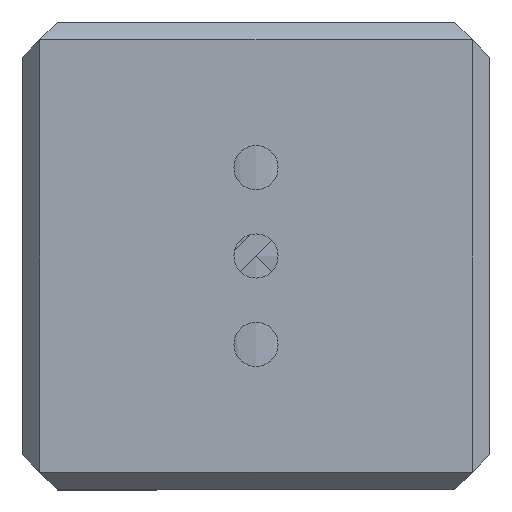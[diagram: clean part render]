
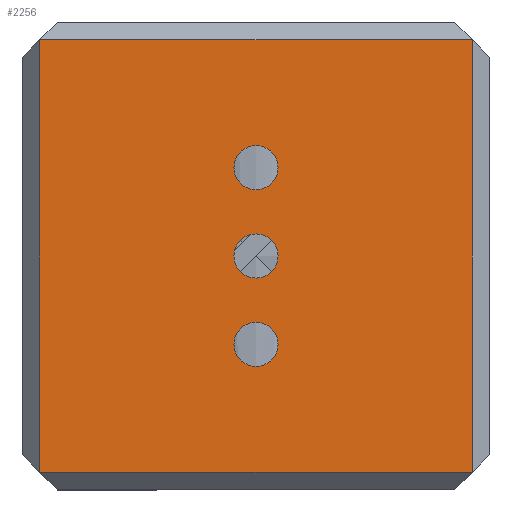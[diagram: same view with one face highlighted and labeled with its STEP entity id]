
A CAD part, front view. The second image highlights one B-rep face of the part: STEP entity #2256.
In plain terms, the highlighted planar face has unit normal (0, -1, 0).
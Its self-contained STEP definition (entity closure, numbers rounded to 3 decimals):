
#150 = EDGE_CURVE ( 'NONE', #11513, #2352, #15773, .T. ) ;
#610 = ORIENTED_EDGE ( 'NONE', *, *, #2350, .F. ) ;
#632 = DIRECTION ( 'NONE',  ( 0., -1., 0. ) ) ;
#1217 = CIRCLE ( 'NONE', #19237, 2.5 ) ;
#1283 = CARTESIAN_POINT ( 'NONE',  ( -2.5, -59.5, 10. ) ) ;
#1376 = ORIENTED_EDGE ( 'NONE', *, *, #11576, .F. ) ;
#1573 = AXIS2_PLACEMENT_3D ( 'NONE', #6654, #11129, #17145 ) ;
#1797 = DIRECTION ( 'NONE',  ( 0., -1., 0. ) ) ;
#2032 = LINE ( 'NONE', #6321, #14712 ) ;
#2105 = DIRECTION ( 'NONE',  ( 1., 0., 0. ) ) ;
#2256 = ADVANCED_FACE ( 'NONE', ( #6930, #17245, #15513, #15791 ), #14063, .T. ) ;
#2350 = EDGE_CURVE ( 'NONE', #16677, #14786, #11243, .T. ) ;
#2352 = VERTEX_POINT ( 'NONE', #15451 ) ;
#2700 = CARTESIAN_POINT ( 'NONE',  ( 0., -59.5, -10. ) ) ;
#2814 = CIRCLE ( 'NONE', #13091, 2.5 ) ;
#3832 = EDGE_LOOP ( 'NONE', ( #7202, #15764, #18458, #6712 ) ) ;
#3995 = CARTESIAN_POINT ( 'NONE',  ( 0., -59.5, 0. ) ) ;
#4098 = VERTEX_POINT ( 'NONE', #8291 ) ;
#4193 = CIRCLE ( 'NONE', #15095, 2.5 ) ;
#4508 = CARTESIAN_POINT ( 'NONE',  ( -24.5, -59.5, -24.5 ) ) ;
#4597 = EDGE_CURVE ( 'NONE', #14786, #16677, #1217, .T. ) ;
#4843 = CARTESIAN_POINT ( 'NONE',  ( 0., -59.5, -10. ) ) ;
#5046 = AXIS2_PLACEMENT_3D ( 'NONE', #6458, #5102, #14425 ) ;
#5102 = DIRECTION ( 'NONE',  ( 0., -1., 0. ) ) ;
#5307 = VECTOR ( 'NONE', #16104, 1000. ) ;
#5342 = EDGE_CURVE ( 'NONE', #2352, #9838, #16016, .T. ) ;
#5797 = CARTESIAN_POINT ( 'NONE',  ( -24.5, -59.5, -26.5 ) ) ;
#5941 = VECTOR ( 'NONE', #18840, 1000. ) ;
#6043 = ORIENTED_EDGE ( 'NONE', *, *, #6987, .F. ) ;
#6321 = CARTESIAN_POINT ( 'NONE',  ( 24.5, -59.5, 26.5 ) ) ;
#6458 = CARTESIAN_POINT ( 'NONE',  ( 0., -59.5, 10. ) ) ;
#6654 = CARTESIAN_POINT ( 'NONE',  ( 0., -59.5, 0. ) ) ;
#6712 = ORIENTED_EDGE ( 'NONE', *, *, #12832, .T. ) ;
#6930 = FACE_BOUND ( 'NONE', #8047, .T. ) ;
#6987 = EDGE_CURVE ( 'NONE', #4098, #14061, #7415, .T. ) ;
#6998 = CARTESIAN_POINT ( 'NONE',  ( -26.5, -59.5, 24.5 ) ) ;
#7202 = ORIENTED_EDGE ( 'NONE', *, *, #150, .T. ) ;
#7360 = DIRECTION ( 'NONE',  ( 0., -1., 0. ) ) ;
#7415 = CIRCLE ( 'NONE', #13348, 2.5 ) ;
#7634 = CARTESIAN_POINT ( 'NONE',  ( -2.5, -59.5, -10. ) ) ;
#7655 = CARTESIAN_POINT ( 'NONE',  ( 0., -59.5, 0. ) ) ;
#8047 = EDGE_LOOP ( 'NONE', ( #10646, #610 ) ) ;
#8291 = CARTESIAN_POINT ( 'NONE',  ( 2.5, -59.5, 10. ) ) ;
#8355 = CARTESIAN_POINT ( 'NONE',  ( 26.5, -59.5, -24.5 ) ) ;
#8475 = CARTESIAN_POINT ( 'NONE',  ( 2.5, -59.5, 0. ) ) ;
#9339 = VERTEX_POINT ( 'NONE', #9846 ) ;
#9510 = DIRECTION ( 'NONE',  ( 0., -1., 0. ) ) ;
#9647 = CARTESIAN_POINT ( 'NONE',  ( 24.5, -59.5, 24.5 ) ) ;
#9722 = LINE ( 'NONE', #8355, #11980 ) ;
#9838 = VERTEX_POINT ( 'NONE', #4508 ) ;
#9846 = CARTESIAN_POINT ( 'NONE',  ( 2.5, -59.5, -10. ) ) ;
#10180 = CARTESIAN_POINT ( 'NONE',  ( -2.5, -59.5, 0. ) ) ;
#10306 = DIRECTION ( 'NONE',  ( 0., -1., 0. ) ) ;
#10646 = ORIENTED_EDGE ( 'NONE', *, *, #4597, .F. ) ;
#11070 = ORIENTED_EDGE ( 'NONE', *, *, #12514, .F. ) ;
#11129 = DIRECTION ( 'NONE',  ( 0., -1., 0. ) ) ;
#11243 = CIRCLE ( 'NONE', #14961, 2.5 ) ;
#11513 = VERTEX_POINT ( 'NONE', #9647 ) ;
#11576 = EDGE_CURVE ( 'NONE', #14137, #9339, #2814, .T. ) ;
#11980 = VECTOR ( 'NONE', #18544, 1000. ) ;
#12514 = EDGE_CURVE ( 'NONE', #14061, #4098, #15631, .T. ) ;
#12832 = EDGE_CURVE ( 'NONE', #17574, #11513, #2032, .T. ) ;
#13084 = CARTESIAN_POINT ( 'NONE',  ( 0., -59.5, 10. ) ) ;
#13091 = AXIS2_PLACEMENT_3D ( 'NONE', #2700, #10306, #13438 ) ;
#13348 = AXIS2_PLACEMENT_3D ( 'NONE', #13084, #7360, #17839 ) ;
#13438 = DIRECTION ( 'NONE',  ( 1., 0., 0. ) ) ;
#14061 = VERTEX_POINT ( 'NONE', #1283 ) ;
#14063 = PLANE ( 'NONE',  #1573 ) ;
#14137 = VERTEX_POINT ( 'NONE', #7634 ) ;
#14425 = DIRECTION ( 'NONE',  ( 1., 0., 0. ) ) ;
#14712 = VECTOR ( 'NONE', #16717, 1000. ) ;
#14786 = VERTEX_POINT ( 'NONE', #8475 ) ;
#14961 = AXIS2_PLACEMENT_3D ( 'NONE', #3995, #9510, #2105 ) ;
#15095 = AXIS2_PLACEMENT_3D ( 'NONE', #4843, #632, #18239 ) ;
#15099 = EDGE_LOOP ( 'NONE', ( #17341, #1376 ) ) ;
#15451 = CARTESIAN_POINT ( 'NONE',  ( -24.5, -59.5, 24.5 ) ) ;
#15513 = FACE_BOUND ( 'NONE', #15099, .T. ) ;
#15631 = CIRCLE ( 'NONE', #5046, 2.5 ) ;
#15764 = ORIENTED_EDGE ( 'NONE', *, *, #5342, .T. ) ;
#15770 = EDGE_CURVE ( 'NONE', #9838, #17574, #9722, .T. ) ;
#15773 = LINE ( 'NONE', #6998, #5941 ) ;
#15791 = FACE_OUTER_BOUND ( 'NONE', #3832, .T. ) ;
#15942 = CARTESIAN_POINT ( 'NONE',  ( 24.5, -59.5, -24.5 ) ) ;
#16016 = LINE ( 'NONE', #5797, #5307 ) ;
#16104 = DIRECTION ( 'NONE',  ( 0., 0., -1. ) ) ;
#16677 = VERTEX_POINT ( 'NONE', #10180 ) ;
#16684 = DIRECTION ( 'NONE',  ( 1., 0., 0. ) ) ;
#16717 = DIRECTION ( 'NONE',  ( 0., 0., 1. ) ) ;
#17145 = DIRECTION ( 'NONE',  ( 1., 0., 0. ) ) ;
#17245 = FACE_BOUND ( 'NONE', #17362, .T. ) ;
#17341 = ORIENTED_EDGE ( 'NONE', *, *, #18103, .F. ) ;
#17362 = EDGE_LOOP ( 'NONE', ( #6043, #11070 ) ) ;
#17574 = VERTEX_POINT ( 'NONE', #15942 ) ;
#17839 = DIRECTION ( 'NONE',  ( 1., 0., 0. ) ) ;
#18103 = EDGE_CURVE ( 'NONE', #9339, #14137, #4193, .T. ) ;
#18239 = DIRECTION ( 'NONE',  ( 1., 0., 0. ) ) ;
#18458 = ORIENTED_EDGE ( 'NONE', *, *, #15770, .T. ) ;
#18544 = DIRECTION ( 'NONE',  ( 1., 0., 0. ) ) ;
#18840 = DIRECTION ( 'NONE',  ( -1., 0., 0. ) ) ;
#19237 = AXIS2_PLACEMENT_3D ( 'NONE', #7655, #1797, #16684 ) ;
